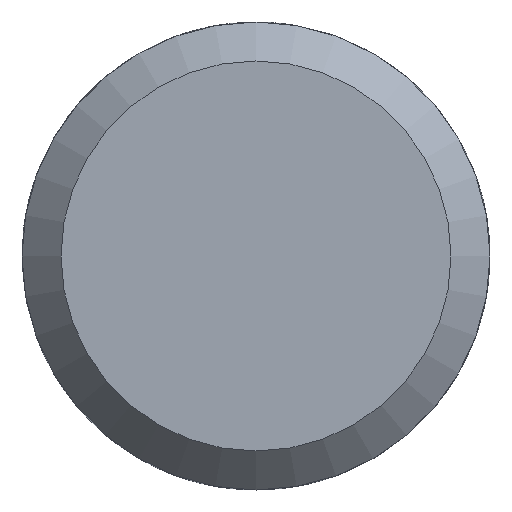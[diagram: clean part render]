
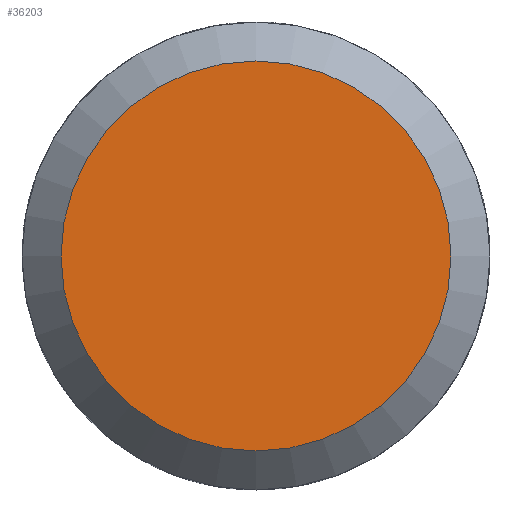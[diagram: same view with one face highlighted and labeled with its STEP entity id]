
A CAD part, left-side view. The second image highlights one B-rep face of the part: STEP entity #36203.
In plain terms, the highlighted planar face has unit normal (-1, 0, 0).
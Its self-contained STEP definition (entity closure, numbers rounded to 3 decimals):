
#11477=ORIENTED_EDGE('',*,*,#14439,.F.);
#13337=CIRCLE('',#35658,2.5);
#13750=VERTEX_POINT('',#20255);
#14439=EDGE_CURVE('',#13750,#13750,#13337,.T.);
#15303=EDGE_LOOP('',(#11477));
#15651=FACE_BOUND('',#15303,.T.);
#16052=DIRECTION('',(1.,0.,0.));
#16053=DIRECTION('',(0.,-2.165,1.25));
#16054=DIRECTION('',(-1.,0.,0.));
#16055=DIRECTION('',(0.,1.,0.));
#20255=CARTESIAN_POINT('',(40.,-1.25,-2.165));
#20256=CARTESIAN_POINT('',(40.,0.,0.));
#20257=CARTESIAN_POINT('',(40.,0.,0.));
#35658=AXIS2_PLACEMENT_3D('',#20256,#16052,#16053);
#35659=AXIS2_PLACEMENT_3D('',#20257,#16054,#16055);
#36184=PLANE('',#35659);
#36203=ADVANCED_FACE('',(#15651),#36184,.T.);
